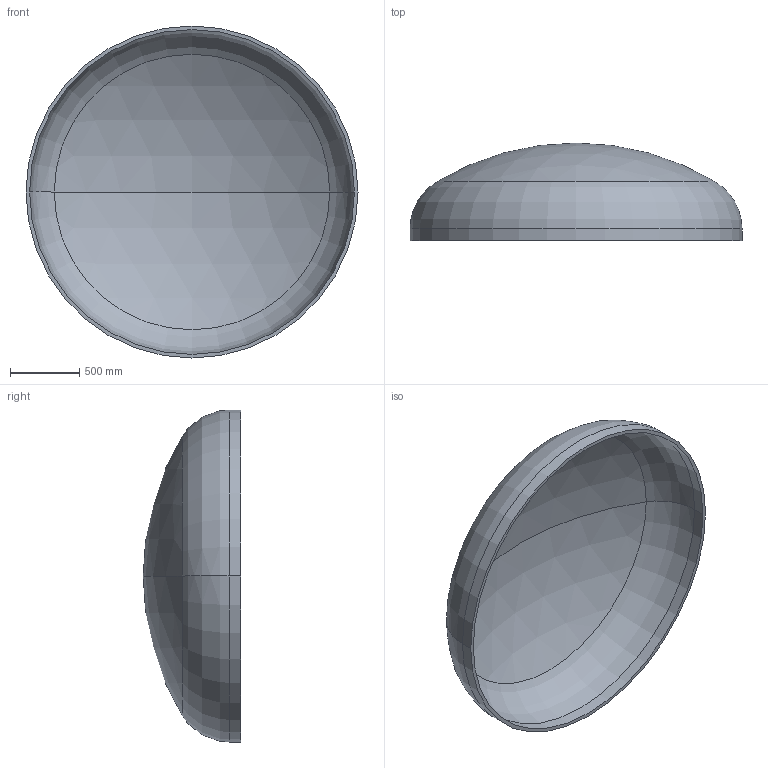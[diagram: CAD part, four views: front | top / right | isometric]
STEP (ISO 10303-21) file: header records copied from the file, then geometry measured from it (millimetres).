
FILE_DESCRIPTION (( 'STEP AP203' ), '1' );
FILE_NAME ('DIN 28013 Korbbogenform_-_Boden DIN 28013 - 2400 x 85 - I - s=26.step', '2016-07-01T15:13:12', ( '' ), ( '' ), 'SwSTEP 2.0', 'SolidWorks 2013', '' );
FILE_SCHEMA (( 'CONFIG_CONTROL_DESIGN' ));
Length unit declared in the file: millimetre
Products named in the file (1): DIN 28013 Korbbogenform_-_Boden DIN 28013 - 2400 x 85 - I - s=26
Bounding box: 2400 x 705.83 x 2400 mm (x, y, z)
Volume: 177103134.1 mm3; surface area: 13818640.6 mm2
Topology: 1 solids, 1 shells, 13 faces, 24 edges, 14 vertices
Faces by surface type: torus 4, cylinder 4, sphere 4, plane 1
Entity records: 407 total; most frequent: DIRECTION 72, CARTESIAN_POINT 52, ORIENTED_EDGE 48, AXIS2_PLACEMENT_3D 34, EDGE_CURVE 24, CIRCLE 20, VERTEX_POINT 14, EDGE_LOOP 14
